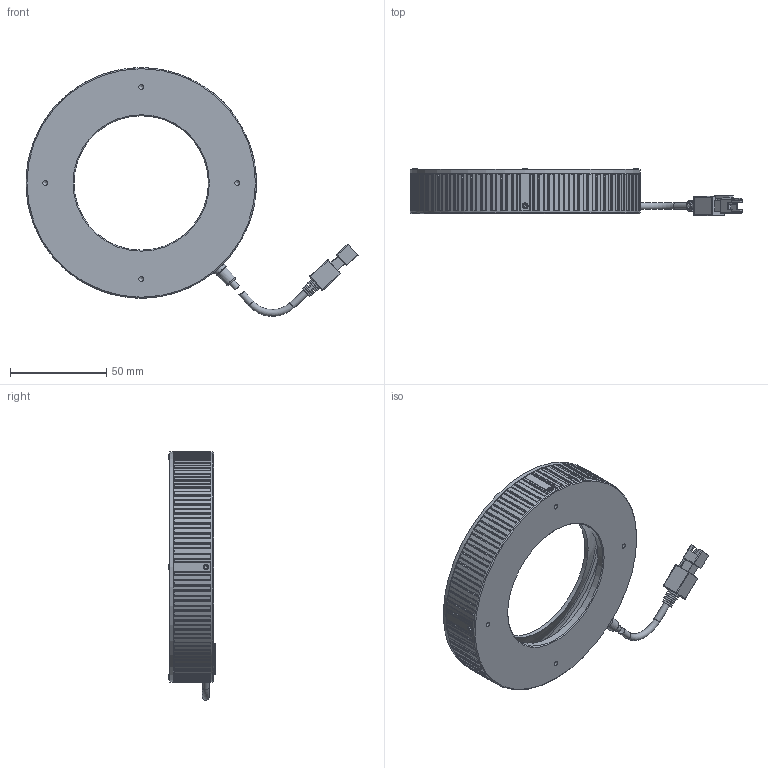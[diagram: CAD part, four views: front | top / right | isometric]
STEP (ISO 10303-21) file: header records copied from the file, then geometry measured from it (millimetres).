
FILE_DESCRIPTION (( 'STEP AP203' ), '1' );
FILE_NAME ('OPT-URI12030-UV-V1.0U尨砩芞.STEP', '2025-02-15T06:55:11', ( '' ), ( '' ), 'SwSTEP 2.0', 'SolidWorks 2016', '' );
FILE_SCHEMA (( 'CONFIG_CONTROL_DESIGN' ));
Length unit declared in the file: millimetre
Products named in the file (1): OPT-URI12030-UV-V1.0U尨砩芞
Bounding box: 172.91 x 24.4 x 129.42 mm (x, y, z)
Volume: 99582.6 mm3; surface area: 52993.3 mm2
Topology: 8 solids, 8 shells, 1005 faces, 2708 edges, 1752 vertices
Faces by surface type: plane 486, cylinder 385, cone 103, torus 23, sphere 4, bspline 4
Full cylindrical faces by diameter (mm): 1.1 x4, 1.4 x8, 1.6 x4, 1.8 x4, 2 x4, 2.2 x4, 2.5 x4, 2.6 x4, 3.5 x3, 5 x1, 6 x1, 7 x1, 70 x2, 71.8 x1, 72.129 x1, 112 x1, 116 x1, 120 x2
Entity records: 32348 total; most frequent: CARTESIAN_POINT 8166, ORIENTED_EDGE 5162, DIRECTION 4750, EDGE_CURVE 2581, AXIS2_PLACEMENT_3D 1746, VERTEX_POINT 1718, LINE 1258, VECTOR 1258
